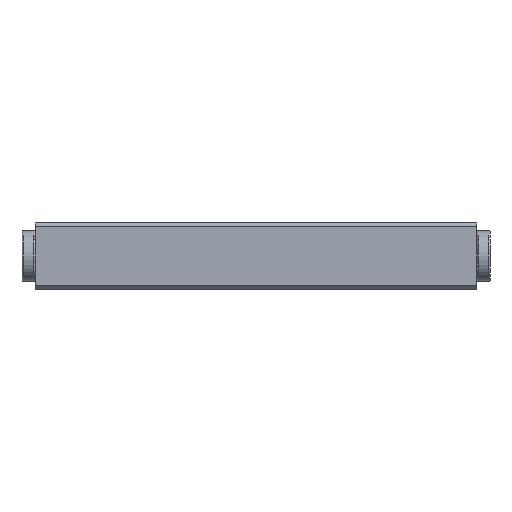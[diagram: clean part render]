
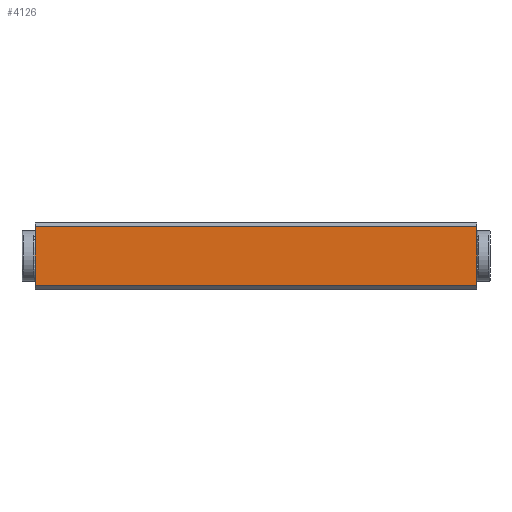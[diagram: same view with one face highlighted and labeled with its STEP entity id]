
A CAD part, front view. The second image highlights one B-rep face of the part: STEP entity #4126.
In plain terms, the highlighted planar face has unit normal (0, -1, 0).
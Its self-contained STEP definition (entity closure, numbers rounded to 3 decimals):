
#427=ORIENTED_EDGE('',*,*,#1697,.T.);
#428=ORIENTED_EDGE('',*,*,#1698,.F.);
#429=ORIENTED_EDGE('',*,*,#1699,.F.);
#430=ORIENTED_EDGE('',*,*,#1695,.T.);
#1695=EDGE_CURVE('',#2330,#2329,#2773,.T.);
#1697=EDGE_CURVE('',#2329,#2331,#2775,.T.);
#1698=EDGE_CURVE('',#2332,#2331,#2776,.T.);
#1699=EDGE_CURVE('',#2330,#2332,#2777,.T.);
#2329=VERTEX_POINT('',#7060);
#2330=VERTEX_POINT('',#7062);
#2331=VERTEX_POINT('',#7066);
#2332=VERTEX_POINT('',#7068);
#2773=LINE('',#7061,#3117);
#2775=LINE('',#7065,#3119);
#2776=LINE('',#7067,#3120);
#2777=LINE('',#7069,#3121);
#3117=VECTOR('',#5854,1000.);
#3119=VECTOR('',#5858,1000.);
#3120=VECTOR('',#5859,1000.);
#3121=VECTOR('',#5860,1000.);
#3458=EDGE_LOOP('',(#427,#428,#429,#430));
#3728=FACE_BOUND('',#3458,.T.);
#3996=PLANE('',#5410);
#4126=ADVANCED_FACE('',(#3728),#3996,.F.);
#5410=AXIS2_PLACEMENT_3D('',#7064,#5856,#5857);
#5854=DIRECTION('',(-1.,0.,0.));
#5856=DIRECTION('',(0.,1.,0.));
#5857=DIRECTION('',(0.,0.,1.));
#5858=DIRECTION('',(0.,0.,-1.));
#5859=DIRECTION('',(-1.,0.,0.));
#5860=DIRECTION('',(0.,0.,-1.));
#7060=CARTESIAN_POINT('',(3.,-15.5,6.6));
#7061=CARTESIAN_POINT('',(103.,-15.5,6.6));
#7062=CARTESIAN_POINT('',(103.,-15.5,6.6));
#7064=CARTESIAN_POINT('',(103.,-15.5,6.6));
#7065=CARTESIAN_POINT('',(3.,-15.5,6.6));
#7066=CARTESIAN_POINT('',(3.,-15.5,-6.6));
#7067=CARTESIAN_POINT('',(103.,-15.5,-6.6));
#7068=CARTESIAN_POINT('',(103.,-15.5,-6.6));
#7069=CARTESIAN_POINT('',(103.,-15.5,6.6));
